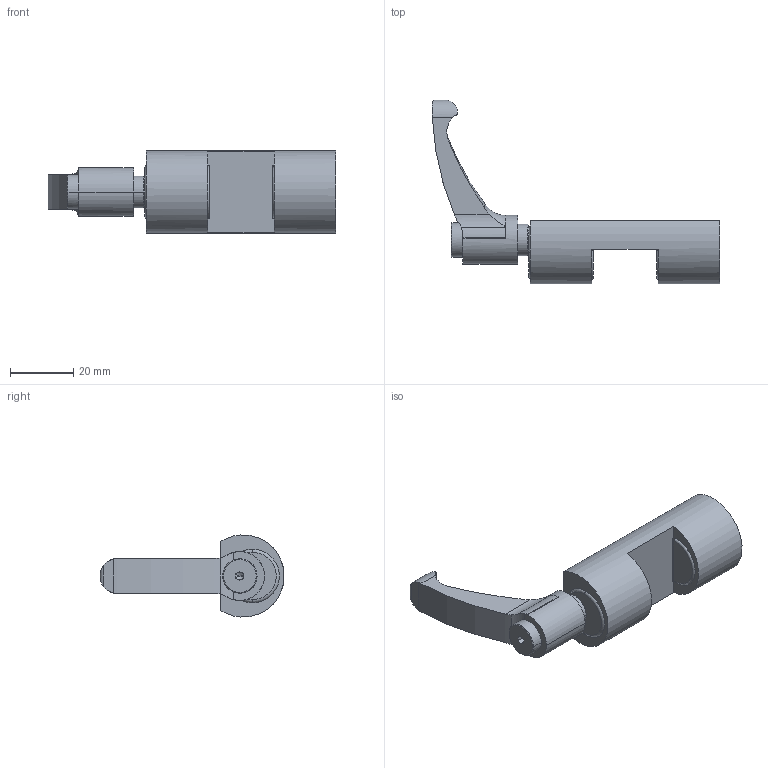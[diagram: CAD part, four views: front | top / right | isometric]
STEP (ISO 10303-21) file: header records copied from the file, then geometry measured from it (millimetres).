
FILE_DESCRIPTION((''),'2;1');
FILE_NAME('FRCMAN20T02LT01','2017-09-15T10:44:50',('pietro.a'),(''),'CREO PARAMETRIC BY PTC INC, 2016510','CREO PARAMETRIC BY PTC INC, 2016510','');
FILE_SCHEMA(('CONFIG_CONTROL_DESIGN'));
Length unit declared in the file: millimetre
Products named in the file (1): FRCMAN20T02LT01
Bounding box: 91 x 58.2 x 25.96 mm (x, y, z)
Volume: 27115.2 mm3; surface area: 10213.7 mm2
Topology: 1 solids, 1 shells, 134 faces, 342 edges, 208 vertices
Faces by surface type: cylinder 48, plane 42, cone 32, torus 10, bspline 2
Entity records: 4336 total; most frequent: CARTESIAN_POINT 1092, DIRECTION 697, ORIENTED_EDGE 656, EDGE_CURVE 328, AXIS2_PLACEMENT_3D 278, VERTEX_POINT 208, EDGE_LOOP 148, CIRCLE 146
